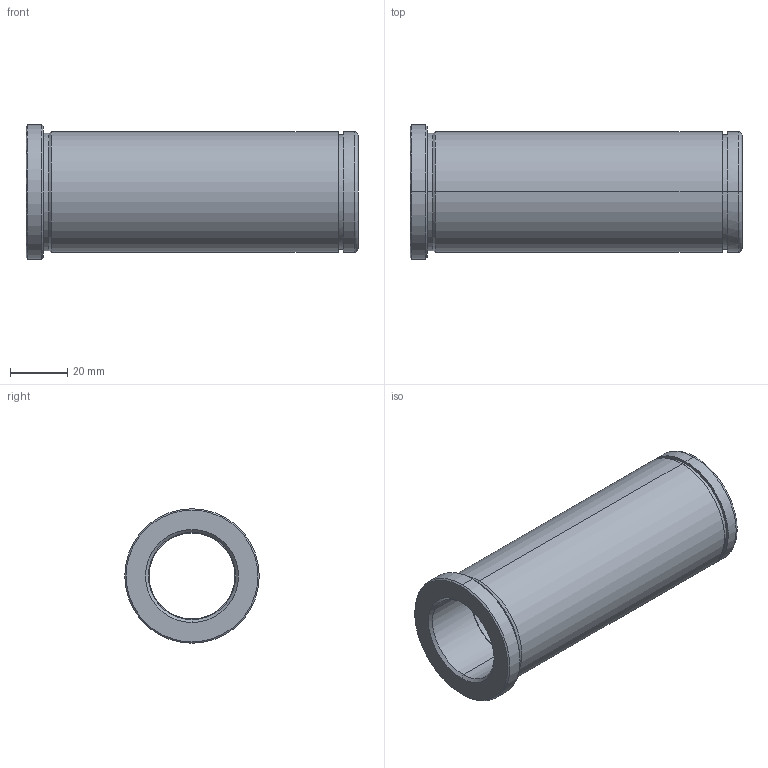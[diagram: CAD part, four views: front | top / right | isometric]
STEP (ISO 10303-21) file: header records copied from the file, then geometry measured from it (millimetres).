
FILE_DESCRIPTION(('CATIA V5 STEP Exchange'),'2;1');
FILE_NAME('C:\Users\Utente\Desktop\IO LAVORO\3D X SITO CF\X SITO\PLASTICA\553\553-30X116.stp','2021-05-26T18:20:13+00:00',('none'),('none'),'CATIA Version 5 Release 20 GA (IN-10)','CATIA V5 STEP AP203','none');
FILE_SCHEMA(('CONFIG_CONTROL_DESIGN'));
Length unit declared in the file: millimetre
Products named in the file (1): 553-30X116
Bounding box: 116 x 47 x 47 mm (x, y, z)
Volume: 79683.2 mm3; surface area: 28432.5 mm2
Topology: 1 solids, 1 shells, 32 faces, 102 edges, 76 vertices
Faces by surface type: cylinder 14, cone 8, plane 6, torus 4
Entity records: 1340 total; most frequent: CARTESIAN_POINT 399, ORIENTED_EDGE 204, DIRECTION 150, EDGE_CURVE 102, AXIS2_PLACEMENT_3D 97, VERTEX_POINT 76, CIRCLE 64, EDGE_LOOP 38
